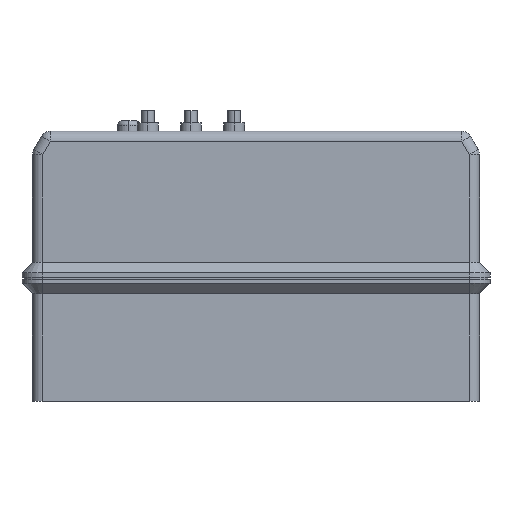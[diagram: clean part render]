
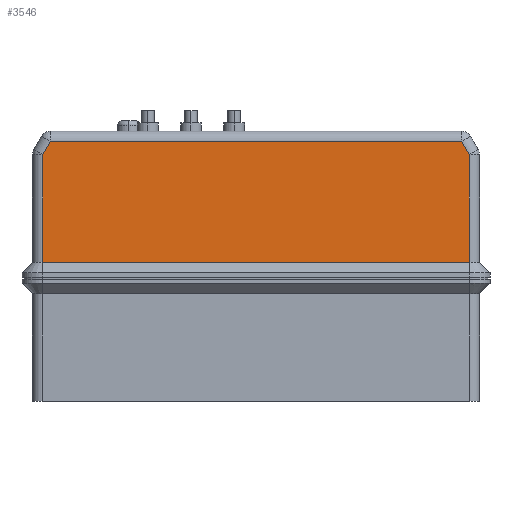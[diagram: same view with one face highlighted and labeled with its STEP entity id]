
A CAD part, left-side view. The second image highlights one B-rep face of the part: STEP entity #3546.
In plain terms, the highlighted planar face has unit normal (-1, 0, 0).
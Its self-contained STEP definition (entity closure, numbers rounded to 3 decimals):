
#641 = VECTOR ( 'NONE', #5414, 1000. ) ;
#770 = VECTOR ( 'NONE', #4049, 1000. ) ;
#778 = VECTOR ( 'NONE', #4066, 1000. ) ;
#806 = VECTOR ( 'NONE', #4620, 1000. ) ;
#1141 = LINE ( 'NONE', #1148, #806 ) ;
#1148 = CARTESIAN_POINT ( 'NONE',  ( -135., -98.84, 125. ) ) ;
#1154 = EDGE_CURVE ( 'NONE', #4782, #4785, #1141, .T. ) ;
#2002 = EDGE_LOOP ( 'NONE', ( #5501, #5502, #5503, #5504, #5505, #5506 ) ) ;
#2342 = CARTESIAN_POINT ( 'NONE',  ( -135., 107.5, 130. ) ) ;
#2346 = FACE_OUTER_BOUND ( 'NONE', #2002, .T. ) ;
#2347 = PLANE ( 'NONE',  #5853 ) ;
#2348 = DIRECTION ( 'NONE',  ( 1., 0., 0. ) ) ;
#2349 = DIRECTION ( 'NONE',  ( 0., 1., 0. ) ) ;
#2530 = LINE ( 'NONE', #2531, #5903 ) ;
#2531 = CARTESIAN_POINT ( 'NONE',  ( -135., 102.5, 130. ) ) ;
#2532 = DIRECTION ( 'NONE',  ( 0., 0., -1. ) ) ;
#2533 = LINE ( 'NONE', #2534, #5904 ) ;
#2534 = CARTESIAN_POINT ( 'NONE',  ( -135., -102.5, 130. ) ) ;
#2535 = DIRECTION ( 'NONE',  ( 0., 0., 1. ) ) ;
#3546 = ADVANCED_FACE ( 'NONE', ( #2346 ), #2347, .F. ) ;
#3616 = EDGE_CURVE ( 'NONE', #4790, #4824, #2530, .T. ) ;
#3617 = EDGE_CURVE ( 'NONE', #4821, #4782, #2533, .T. ) ;
#4047 = LINE ( 'NONE', #4048, #770 ) ;
#4048 = CARTESIAN_POINT ( 'NONE',  ( -135., 102.5, 118.66 ) ) ;
#4049 = DIRECTION ( 'NONE',  ( 0., 0.5, -0.866 ) ) ;
#4064 = LINE ( 'NONE', #4065, #778 ) ;
#4065 = CARTESIAN_POINT ( 'NONE',  ( -135., 98.84, 125. ) ) ;
#4066 = DIRECTION ( 'NONE',  ( 0., 1., 0. ) ) ;
#4620 = DIRECTION ( 'NONE',  ( 0., 0.5, 0.866 ) ) ;
#4782 = VERTEX_POINT ( 'NONE', #5246 ) ;
#4785 = VERTEX_POINT ( 'NONE', #5249 ) ;
#4790 = VERTEX_POINT ( 'NONE', #5254 ) ;
#4797 = VERTEX_POINT ( 'NONE', #5261 ) ;
#4821 = VERTEX_POINT ( 'NONE', #5285 ) ;
#4824 = VERTEX_POINT ( 'NONE', #5288 ) ;
#5246 = CARTESIAN_POINT ( 'NONE',  ( -135., -102.5, 118.66 ) ) ;
#5249 = CARTESIAN_POINT ( 'NONE',  ( -135., -98.84, 125. ) ) ;
#5254 = CARTESIAN_POINT ( 'NONE',  ( -135., 102.5, 118.66 ) ) ;
#5261 = CARTESIAN_POINT ( 'NONE',  ( -135., 98.84, 125. ) ) ;
#5285 = CARTESIAN_POINT ( 'NONE',  ( -135., -102.5, 66.83 ) ) ;
#5288 = CARTESIAN_POINT ( 'NONE',  ( -135., 102.5, 66.83 ) ) ;
#5412 = LINE ( 'NONE', #5413, #641 ) ;
#5413 = CARTESIAN_POINT ( 'NONE',  ( -135., 102.5, 66.83 ) ) ;
#5414 = DIRECTION ( 'NONE',  ( 0., -1., 0. ) ) ;
#5501 = ORIENTED_EDGE ( 'NONE', *, *, #6668, .T. ) ;
#5502 = ORIENTED_EDGE ( 'NONE', *, *, #3617, .T. ) ;
#5503 = ORIENTED_EDGE ( 'NONE', *, *, #1154, .T. ) ;
#5504 = ORIENTED_EDGE ( 'NONE', *, *, #6776, .T. ) ;
#5505 = ORIENTED_EDGE ( 'NONE', *, *, #6771, .T. ) ;
#5506 = ORIENTED_EDGE ( 'NONE', *, *, #3616, .T. ) ;
#5853 = AXIS2_PLACEMENT_3D ( 'NONE', #2342, #2348, #2349 ) ;
#5903 = VECTOR ( 'NONE', #2532, 1000. ) ;
#5904 = VECTOR ( 'NONE', #2535, 1000. ) ;
#6668 = EDGE_CURVE ( 'NONE', #4824, #4821, #5412, .T. ) ;
#6771 = EDGE_CURVE ( 'NONE', #4797, #4790, #4047, .T. ) ;
#6776 = EDGE_CURVE ( 'NONE', #4785, #4797, #4064, .T. ) ;
